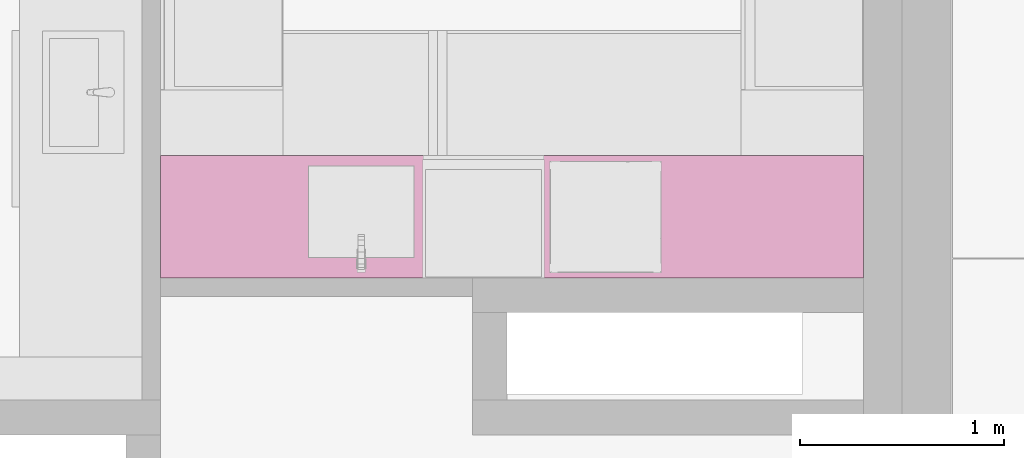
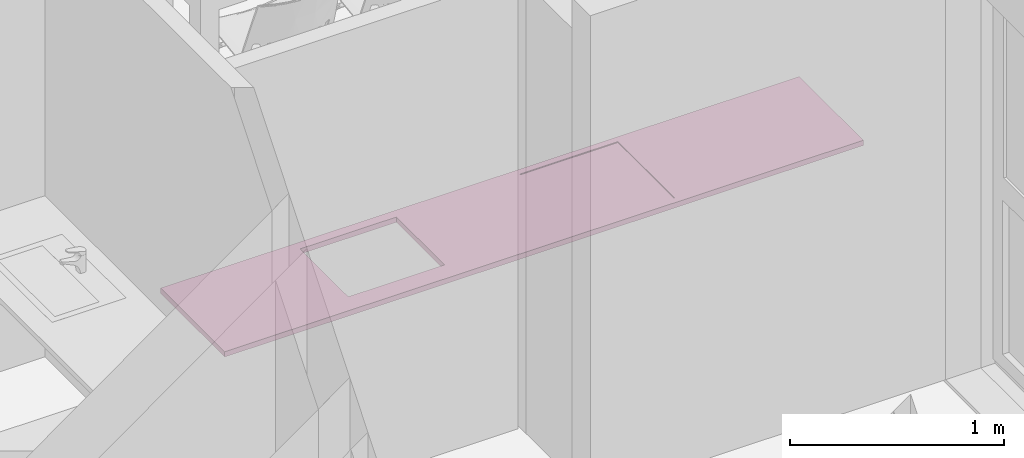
# One storey, part 38 of 57: 1 furnishing.
"""IFC2X3 building model written with IfcOpenShell, lengths in millimetres."""

from ifc_helpers import new_model, entity, si_unit, converted_unit, direction, frame, origin, place, context, subcontext, project, spatial, faceted_brep, source, transform, mapped, material, type_object, type_shapes, element, save


model = new_model("IFC2X3")

# Units and contexts
model_context = context("Model", 3, precision=0.01, world=origin(), true_north=direction((6.123233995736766e-17, 1.0)))
plan_context = context("Plan", 3, precision=0.01, world=origin(), true_north=direction((6.123233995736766e-17, 1.0)))
body_context = subcontext(model_context, "Body", "Model", "MODEL_VIEW")
ifc_project = project(units=[si_unit("LENGTHUNIT", "METRE", prefix="MILLI"), converted_unit("PLANEANGLEUNIT", "DEGREE", entity("IfcPlaneAngleMeasure", 0.017453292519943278), si_unit("PLANEANGLEUNIT", "RADIAN"), dimensions=[0, 0, 0, 0, 0, 0, 0]), si_unit("AREAUNIT", "SQUARE_METRE")], contexts=[model_context, plan_context])

# Site, building, storey, space
site_placement = place(None, origin())
site = spatial("IfcSite", under=ifc_project, at=site_placement, Name="Default", CompositionType="ELEMENT")
building_placement = place(site_placement, origin())
building = spatial("IfcBuilding", under=site, at=building_placement, CompositionType="ELEMENT")
storey_placement = place(building_placement, frame((0.0, 0.0, 12811.000000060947)))
storey = spatial("IfcBuildingStorey", under=building, at=storey_placement, Name="5K", CompositionType="ELEMENT", Elevation=12811.000000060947)
space_placement = place(storey_placement, origin())
space = spatial("IfcSpace", under=storey, at=space_placement, Name="5-12.4", CompositionType="ELEMENT", InteriorOrExteriorSpace="INTERNAL")

# Furnishing
ifc_material = material(Name="<Unnamed>")
furniture_type = type_object("IfcFurnitureType", Name="HR_Casework_Work-surface_Generic_Rectangular_v1:Default", AssemblyPlace="NOTDEFINED", material=ifc_material)
shared_shape = source(origin(), body_context, "Body", "Brep", [
    faceted_brep([(8450.0, 9210.0, 900.0), (11900.0, 9210.0, 900.0), (11900.0, 9810.0, 900.0), (8450.0, 9810.0, 900.0), (10370.0, 9775.0, 900.0), (10900.0, 9775.0, 900.0), (10900.0, 9245.0, 900.0), (10370.0, 9245.0, 900.0), (9175.0, 9760.0, 900.0), (9695.0, 9760.0, 900.0), (9695.0, 9310.0, 900.0), (9175.0, 9310.0, 900.0), (8450.0, 9210.0, 870.0), (8450.0, 9810.0, 870.0), (11900.0, 9810.0, 870.0), (11900.0, 9210.0, 870.0), (9695.0, 9760.0, 870.0), (9175.0, 9760.0, 870.0), (9175.0, 9310.0, 870.0), (9695.0, 9310.0, 870.0), (10900.0, 9775.0, 895.0), (10370.0, 9775.0, 895.0), (10370.0, 9245.0, 895.0), (10900.0, 9245.0, 895.0)], [[[0, 1, 2, 3], [4, 5, 6, 7], [8, 9, 10, 11]], [[12, 13, 14, 15], [16, 17, 18, 19]], [[1, 0, 12, 15]], [[2, 1, 15, 14]], [[3, 2, 14, 13]], [[0, 3, 13, 12]], [[20, 21, 22, 23]], [[21, 20, 5, 4]], [[22, 21, 4, 7]], [[23, 22, 7, 6]], [[20, 23, 6, 5]], [[16, 9, 8, 17]], [[17, 8, 11, 18]], [[18, 11, 10, 19]], [[9, 16, 19, 10]]]),
])
type_shapes(furniture_type, [shared_shape])
furnishing_placement = place(space_placement, origin())
element("IfcFurnishingElement", 1, at=furnishing_placement, inside=space, type_object=furniture_type, material=ifc_material, Name="HR_Casework_Work-surface_Generic_Rectangular_v1:Default", ObjectType="HR_Casework_Work-surface_Generic_Rectangular_v1:Default", context=body_context, shape_type="MappedRepresentation", body=[
    mapped(shared_shape, transform((0.0, 0.0, 0.0), scale=1.0)),
])

save(model, "model.ifc")
